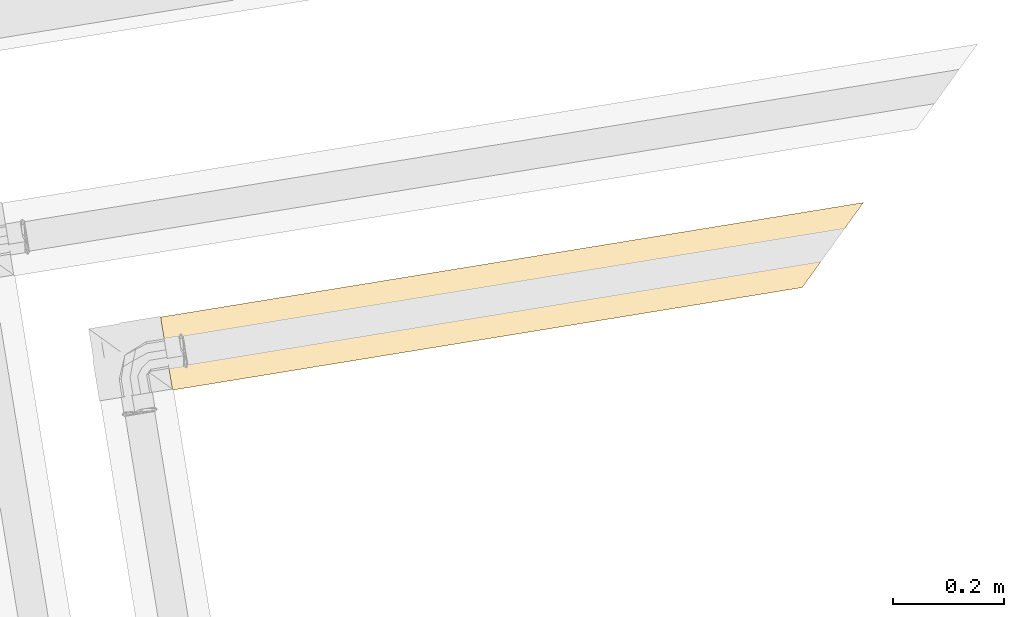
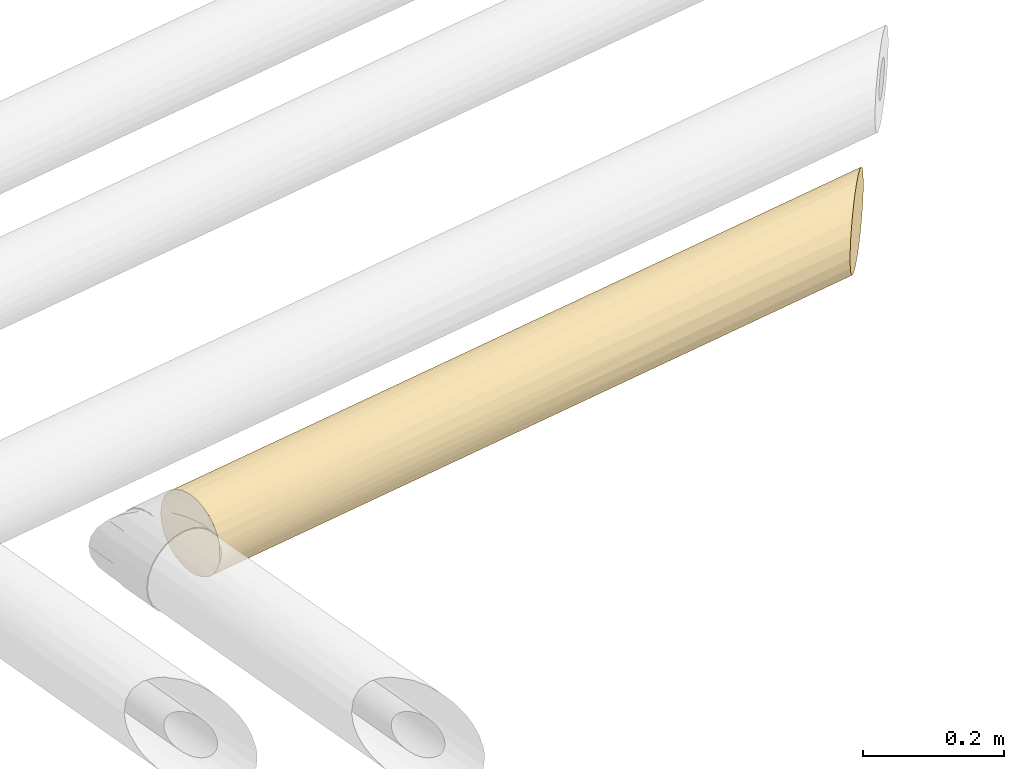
# One storey, part 4 of 46: 1 covering.
"""IFC2X3 building model written with IfcOpenShell, lengths in millimetres."""

from ifc_helpers import new_model, entity, si_unit, converted_unit, derived_unit, direction, frame, origin, origin_with_axes, place, context, subcontext, project, spatial, faceted_brep, type_object, element, save


model = new_model("IFC2X3")

# Units and contexts
model_context = context("Model", 3, precision=0.01, world=origin(), true_north=direction((6.12323399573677e-17, 1.0)))
plan_context = context("Plan", 3, precision=1e-05, world=origin_with_axes())
body_context = subcontext(model_context, "Body", "Model", "MODEL_VIEW")
ifc_project = project(units=[converted_unit("PLANEANGLEUNIT", "DEGREE", entity("IfcPositiveLengthMeasure", 0.0174532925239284), si_unit("PLANEANGLEUNIT", "RADIAN"), dimensions=[0, 0, 0, 0, 0, 0, 0]), si_unit("AREAUNIT", "SQUARE_METRE"), si_unit("LENGTHUNIT", "METRE", prefix="MILLI"), si_unit("MASSUNIT", "GRAM", prefix="KILO"), si_unit("POWERUNIT", "WATT"), si_unit("PRESSUREUNIT", "PASCAL", prefix="KILO"), si_unit("FORCEUNIT", "NEWTON", prefix="KILO"), si_unit("ELECTRICVOLTAGEUNIT", "VOLT"), si_unit("ELECTRICCURRENTUNIT", "AMPERE"), si_unit("THERMODYNAMICTEMPERATUREUNIT", "DEGREE_CELSIUS"), si_unit("TIMEUNIT", "SECOND"), si_unit("VOLUMEUNIT", "CUBIC_METRE"), derived_unit("LINEARVELOCITYUNIT", [(si_unit("LENGTHUNIT", "METRE"), 1), (si_unit("TIMEUNIT", "SECOND"), -1)]), derived_unit("VOLUMETRICFLOWRATEUNIT", [(si_unit("VOLUMEUNIT", "CUBIC_METRE"), 1), (si_unit("TIMEUNIT", "SECOND"), -1)]), derived_unit("THERMALTRANSMITTANCEUNIT", [(si_unit("POWERUNIT", "WATT"), 1), (si_unit("THERMODYNAMICTEMPERATUREUNIT", "KELVIN"), -1), (si_unit("AREAUNIT", "SQUARE_METRE"), -1)]), derived_unit("SOUNDPRESSUREUNIT", [(si_unit("PRESSUREUNIT", "PASCAL"), 1)])], contexts=[model_context, plan_context])

# Site, building, storey
site_placement = place(None, frame((-3.09682673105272e-06, 1.93776733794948e-05, 0.0), z_axis=(0.0, 0.0, 1.0), x_axis=(-0.160806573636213, 0.986985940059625, 0.0)))
site = spatial("IfcSite", under=ifc_project, at=site_placement, Name="Default", CompositionType="ELEMENT")
building_placement = place(site_placement, frame((0.0, 0.0, 0.0), z_axis=(0.0, 0.0, 1.0), x_axis=(1.0, -2.77555756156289e-17, 0.0)))
building = spatial("IfcBuilding", under=site, at=building_placement, Name="Bygning (endres i Project Information)", CompositionType="ELEMENT")
storey_placement = place(building_placement, frame((0.0, 0.0, 51360.0000000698), z_axis=(0.0, 0.0, 1.0), x_axis=(1.0, -2.77555756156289e-17, 0.0)))
storey = spatial("IfcBuildingStorey", under=building, at=storey_placement, Name="H01-Nivå D+0,36", CompositionType="ELEMENT", Elevation=51360.0000000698)

# Covering
covering_type = type_object("IfcCoveringType", Name="Pipe Insulation:GLAVA Rørskål ClimPipe Alu2, isol.kl.4, 45°C", PredefinedType="INSULATION")
covering_placement = place(storey_placement, frame((998984.84157053, -357322.431189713, 3371.40472772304), z_axis=(0.0, 0.0, 1.0), x_axis=(1.0, -2.77555756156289e-17, 0.0)))
element("IfcCovering", 1, at=covering_placement, inside=storey, type_object=covering_type, Name="Pipe Insulation:GLAVA Rørskål ClimPipe Alu2, isol.kl.4, 45°C", ObjectType="Pipe Insulation:GLAVA Rørskål ClimPipe Alu2, isol.kl.4, 45°C", PredefinedType="INSULATION", context=body_context, shape_type="Brep", body=[
    faceted_brep([(39.9299875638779, 9700.0, 129.153520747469), (27.3581172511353, 9700.0, 121.401493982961), (16.7908010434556, 9700.0, 111.084056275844), (8.73898999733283, 9700.0, 98.6988514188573), (3.59527227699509, 9700.0, 84.8433492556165), (3.59527227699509, 9700.0, 52.3471952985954), (8.73898999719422, 9700.0, 38.4916931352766), (16.790801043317, 9700.0, 26.1064882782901), (27.3581172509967, 9700.0, 15.7890505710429), (39.9299875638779, 9700.0, 8.03702380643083), (53.89434458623, 9700.0, 3.2279812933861), (68.5952722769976, 9700.0, 1.5952722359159), (85.9361483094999, 9700.0, 3.87824187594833), (102.095272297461, 9700.0, 10.5715701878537), (115.971426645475, 9700.0, 21.2191179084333), (126.618974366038, 9700.0, 35.0952722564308), (133.312302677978, 9700.0, 51.2543962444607), (135.595272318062, 9700.0, 68.5952722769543), (133.312302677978, 9700.0, 85.9361483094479), (126.618974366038, 9700.0, 102.095272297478), (115.971426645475, 9700.0, 115.971426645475), (102.095272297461, 9700.0, 126.618974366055), (85.9361483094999, 9700.0, 133.31230267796), (68.5952722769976, 9700.0, 135.595272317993), (53.8943445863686, 9700.0, 133.962563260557), (21.7891917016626, 8525.0090230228, 116.534721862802), (12.7832729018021, 8534.01494182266, 104.78228883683), (21.7888472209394, 8889.62797751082, 116.53438552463), (35.3195724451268, 8511.47864227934, 126.513104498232), (82.4125739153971, 8464.38564080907, 134.153797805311), (80.3450519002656, 8466.4531628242, 134.383326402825), (82.2713700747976, 8504.18182668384, 134.1846338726), (68.5952722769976, 8478.20294244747, 135.595272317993), (68.5952722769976, 8556.76818252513, 135.595272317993), (81.4398479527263, 9021.03046517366, 134.352529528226), (68.5952722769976, 9128.38272006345, 135.595272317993), (80.0627785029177, 9360.94450971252, 134.60660695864), (94.2350622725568, 9362.10025371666, 130.495200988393), (109.382288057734, 9231.32429401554, 121.749946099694), (94.2350622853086, 8958.81252754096, 130.495200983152), (109.00714311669, 8758.50508087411, 122.035712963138), (95.4628387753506, 8472.07903979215, 129.972253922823), (111.122932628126, 8435.67528209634, 120.333737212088), (97.4475607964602, 8449.35065392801, 128.727914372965), (95.6217135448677, 8451.1765011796, 129.896956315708), (132.600526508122, 8414.19768821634, 86.573105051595), (132.064829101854, 8414.73338562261, 90.0476544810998), (131.977318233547, 8503.48347362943, 90.3143020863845), (135.595272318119, 8411.20294240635, 68.5952722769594), (135.595272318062, 8556.76668676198, 68.595272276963), (132.027240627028, 8808.1059209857, 90.1680652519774), (134.349130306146, 9011.88430848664, 81.457237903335), (130.495200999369, 9092.54379816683, 94.2350622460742), (124.14843047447, 8965.11062637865, 106.04986638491), (121.74994612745, 8619.67089482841, 109.382288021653), (121.749946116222, 9310.55035789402, 109.38228803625), (130.495200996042, 9436.16345947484, 94.2350622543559), (134.560535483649, 9355.79886491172, 80.3248952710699), (135.595272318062, 9128.3833433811, 68.5952722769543), (134.606606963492, 9360.94451143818, 57.127766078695), (134.352529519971, 9021.03046937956, 55.7506965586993), (134.188026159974, 8500.7615047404, 54.9354537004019), (130.495200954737, 8958.81252971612, 42.955482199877), (129.972253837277, 8472.07904357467, 41.7277055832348), (130.694255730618, 8416.10395899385, 43.9686701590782), (134.169089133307, 8412.62912559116, 54.8457414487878), (129.773929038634, 8417.02428568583, 41.3092486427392), (127.104261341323, 8419.69395338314, 37.1532565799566), (107.944028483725, 8438.85418624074, 14.4136248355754), (115.008197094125, 8431.79001763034, 20.7765114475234), (109.382287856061, 8619.67089808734, 15.4405982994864), (92.4302597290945, 8454.36795499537, 6.25604964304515), (90.3143019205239, 8503.48347695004, 5.21322626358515), (90.1735157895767, 8456.62469893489, 5.16702177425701), (88.424146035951, 8458.37406868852, 4.89836426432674), (68.5952722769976, 8478.20294244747, 1.5952722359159), (68.5952722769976, 8556.76613633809, 1.5952722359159), (64.3535348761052, 8482.44467984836, 2.11950725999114), (4.08056632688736, 8542.71764839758, 50.6175336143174), (8.23918738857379, 8538.55902733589, 40.3017383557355), (4.52398121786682, 8752.84321010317, 49.0026801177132), (10.5529106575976, 8536.24530406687, 35.1715476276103), (12.4225093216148, 9011.81789362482, 32.0765002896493), (12.7832727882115, 8534.01494193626, 32.4082558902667), (21.7888471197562, 8889.62797765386, 20.6561591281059), (21.789191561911, 8525.00902316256, 20.6558228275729), (35.3195722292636, 8511.4786424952, 10.6774401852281), (36.4137014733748, 8510.38451325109, 9.83722716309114), (33.4297884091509, 9011.82273830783, 11.5655541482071), (38.1536223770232, 8508.64459234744, 9.08862521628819), (50.0582958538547, 8770.37043532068, 4.21064281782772), (51.2829024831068, 8495.51531224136, 3.8807628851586), (46.7792501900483, 9280.70871282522, 5.24654548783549), (68.5952722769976, 9128.38306816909, 1.5952722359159), (81.4572378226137, 9011.88430998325, 2.84141423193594), (90.1680651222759, 8808.10592356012, 5.16330388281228), (94.2350621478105, 9092.54379994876, 6.69534351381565), (106.04986626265, 8965.11062875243, 13.0421139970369), (122.035712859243, 8758.50508414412, 28.1834012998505), (121.749946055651, 9231.32429547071, 27.8082564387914), (109.382287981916, 9310.55035921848, 15.4405983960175), (130.495200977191, 9362.10025453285, 42.955482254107), (94.2350622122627, 9436.1634604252, 6.69534354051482), (80.324895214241, 9355.79886528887, 2.63000906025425), (33.4297884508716, 9380.97952465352, 11.5655541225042), (21.7893064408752, 9280.71015107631, 20.6557106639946), (12.4225093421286, 9380.98605478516, 32.0765002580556), (5.78391547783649, 9280.65365067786, 45.2771792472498), (2.53456713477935, 9269.2875078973, 57.4156818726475), (1.59527223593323, 9126.38228358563, 68.5952722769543), (1.59527223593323, 8554.76651207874, 68.5952722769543), (4.52398125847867, 8752.84320957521, 88.1878645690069), (2.53456714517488, 9269.28750765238, 79.7748627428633), (1.59527223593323, 9412.19211420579, 68.5952722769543), (2.09715197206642, 9698.50187969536, 76.7806251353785), (5.78391550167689, 9280.6536506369, 91.9133653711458), (12.4225093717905, 9380.98605484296, 105.114044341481), (12.4225093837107, 9011.81789377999, 105.114044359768), (21.7893064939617, 9280.71015108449, 116.534833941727), (33.4297885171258, 9011.82273869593, 125.624990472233), (33.4297885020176, 9380.97952481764, 125.624990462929), (46.7792502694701, 9280.70871289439, 131.943999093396), (50.0582959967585, 8770.37043618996, 132.979901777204), (38.1536224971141, 8508.64459222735, 128.101919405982), (36.4137016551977, 8510.38451306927, 127.35331749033), (10.5529107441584, 8536.24530398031, 102.018997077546), (8.23918744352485, 8538.55902728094, 96.8888063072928), (1.59527223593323, 9697.99999995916, 68.5952722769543), (2.09715197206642, 9698.50187969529, 60.4099194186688), (4.08056636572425, 8542.71764835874, 86.5730110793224), (1.65953218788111, 8545.13868253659, 69.1300040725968), (1.65953218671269, 8545.13868253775, 68.0605404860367), (1.59527223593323, 8545.20294248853, 68.5952722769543), (120.285431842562, 8426.5127828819, 26.0075617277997), (134.604775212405, 8412.19343951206, 58.9807420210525), (130.133967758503, 8416.66424696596, 94.054582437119), (122.861646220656, 8423.93656850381, 107.825370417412), (116.375209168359, 8430.42300555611, 115.049131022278), (94.7069617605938, 8452.09125296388, 130.221511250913), (64.353453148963, 8482.4447615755, 135.07102720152), (51.2829026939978, 8495.51531203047, 133.309781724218)], [[[0, 1, 2, 3, 4, 5, 6, 7, 8, 9, 10, 11, 12, 13, 14, 15, 16, 17, 18, 19, 20, 21, 22, 23, 24]], [[25, 26, 27]], [[28, 25, 27]], [[29, 30, 31]], [[30, 32, 33, 31]], [[31, 33, 34]], [[34, 33, 35]], [[34, 35, 36]], [[36, 35, 23]], [[22, 36, 23]], [[22, 37, 36]], [[22, 21, 37]], [[38, 37, 21]], [[39, 37, 38]], [[39, 34, 37]], [[39, 38, 40]], [[39, 40, 41]], [[42, 43, 41, 40]], [[43, 44, 41]], [[45, 46, 47]], [[48, 45, 47, 49]], [[47, 50, 49]], [[49, 50, 51]], [[51, 50, 52]], [[53, 52, 50]], [[54, 53, 50]], [[54, 40, 53]], [[52, 53, 55]], [[38, 55, 53]], [[20, 55, 38]], [[19, 55, 20]], [[19, 56, 55]], [[18, 56, 19]], [[57, 56, 18]], [[56, 57, 52]], [[17, 57, 18]], [[58, 57, 17]], [[51, 57, 58]], [[59, 58, 17]], [[60, 58, 59]], [[60, 49, 58]], [[61, 49, 60]], [[60, 62, 61]], [[62, 63, 61]], [[64, 65, 61, 63]], [[66, 64, 63]], [[67, 66, 63]], [[68, 69, 70]], [[71, 68, 70, 72]], [[73, 71, 72]], [[74, 73, 72]], [[75, 74, 72, 76]], [[77, 75, 76]], [[78, 79, 80]], [[79, 81, 82, 80]], [[81, 83, 84, 82]], [[83, 85, 84]], [[85, 86, 84]], [[86, 87, 88, 84]], [[87, 89, 90, 88]], [[89, 91, 90]], [[92, 88, 90]], [[92, 90, 93]], [[76, 93, 90]], [[94, 93, 76]], [[76, 95, 94]], [[94, 95, 96]], [[97, 96, 95]], [[70, 97, 95]], [[70, 98, 97]], [[97, 98, 99]], [[99, 100, 97]], [[14, 100, 99]], [[14, 99, 15]], [[99, 101, 15]], [[62, 101, 99]], [[16, 15, 101]], [[16, 101, 59]], [[100, 14, 13]], [[13, 102, 100]], [[96, 100, 102]], [[102, 103, 96]], [[103, 102, 12]], [[11, 103, 12]], [[93, 103, 11]], [[93, 11, 10]], [[12, 102, 13]], [[62, 99, 98]], [[96, 97, 100]], [[103, 94, 96]], [[94, 103, 93]], [[92, 93, 10]], [[10, 9, 92]], [[9, 104, 92]], [[104, 9, 8]], [[105, 104, 8]], [[88, 104, 105]], [[8, 7, 105]], [[7, 106, 105]], [[82, 105, 106]], [[82, 106, 107]], [[106, 6, 107]], [[5, 107, 6]], [[108, 107, 5]], [[107, 108, 80]], [[109, 80, 108]], [[109, 110, 80]], [[110, 109, 111]], [[109, 112, 111]], [[109, 113, 112]], [[112, 113, 114]], [[4, 112, 114]], [[115, 112, 4]], [[4, 3, 115]], [[3, 116, 115]], [[117, 115, 116]], [[117, 116, 118]], [[117, 118, 27]], [[118, 119, 27]], [[119, 118, 120]], [[119, 120, 121]], [[122, 119, 121]], [[123, 124, 119, 122]], [[121, 35, 122]], [[121, 24, 35]], [[24, 121, 0]], [[121, 120, 0]], [[1, 0, 120]], [[1, 120, 118]], [[2, 1, 118]], [[2, 118, 116]], [[115, 117, 111]], [[125, 126, 111, 117]], [[3, 2, 116]], [[113, 127, 114]], [[128, 127, 113]], [[128, 113, 108]], [[111, 112, 115]], [[129, 130, 110, 111]], [[108, 113, 109]], [[108, 5, 128]], [[7, 6, 106]], [[104, 88, 92]], [[88, 105, 84]], [[82, 84, 105]], [[80, 82, 107]], [[131, 78, 80, 110]], [[132, 131, 110]], [[91, 77, 76, 90]], [[72, 95, 76]], [[72, 70, 95]], [[69, 133, 98, 70]], [[133, 67, 63, 98]], [[65, 134, 61]], [[62, 98, 63]], [[62, 60, 101]], [[60, 59, 101]], [[16, 59, 17]], [[52, 55, 56]], [[57, 51, 52]], [[51, 58, 49]], [[47, 54, 50]], [[135, 136, 54, 47]], [[134, 48, 49, 61]], [[46, 135, 47]], [[136, 137, 54]], [[44, 138, 41]], [[137, 42, 40, 54]], [[39, 41, 31]], [[53, 40, 38]], [[20, 38, 21]], [[23, 35, 24]], [[34, 36, 37]], [[35, 33, 122]], [[139, 140, 122, 33]], [[34, 39, 31]], [[138, 29, 31, 41]], [[32, 139, 33]], [[140, 123, 122]], [[124, 28, 27, 119]], [[26, 125, 117, 27]], [[126, 129, 111]], [[130, 132, 110]], [[5, 4, 114, 127, 128]], [[28, 124, 123, 140, 139, 32, 30, 29, 138, 44, 43, 42, 137, 136, 135, 46, 45, 48, 134, 65, 64, 66, 67, 133, 69, 68, 71, 73, 74, 75, 77, 91, 89, 87, 86, 85, 83, 81, 79, 78, 131, 132, 130, 129, 126, 125, 26, 25]]], orient=[[False], [False], [False], [False], [False], [False], [False], [False], [False], [False], [False], [False], [False], [False], [False], [False], [False], [False], [False], [False], [False], [False], [False], [False], [False], [False], [False], [False], [False], [False], [False], [False], [False], [False], [False], [False], [False], [False], [False], [False], [False], [False], [False], [False], [False], [False], [False], [False], [False], [False], [False], [False], [False], [False], [False], [False], [False], [False], [False], [False], [False], [False], [False], [False], [False], [False], [False], [False], [False], [False], [False], [False], [False], [False], [False], [False], [False], [False], [False], [False], [False], [False], [False], [False], [False], [False], [False], [False], [False], [False], [False], [False], [False], [False], [False], [False], [False], [False], [False], [False], [False], [False], [False], [False], [False], [False], [False], [False], [False], [False], [False], [False], [False], [False], [False], [False], [False], [False], [False], [False], [False], [False], [False], [False], [False], [False], [False], [False], [False], [False], [False], [False], [False], [False], [False], [False], [False], [False], [False], [False], [False], [False], [False], [False], [False], [False], [False], [False], [False], [False], [False], [False], [False], [False], [False], [False], [False], [False], [False], [False], [False], [False], [False], [False], [False], [False], [False], [False], [False], [False], [False], [False], [False], [False], [False], [False], [False], [False], [False], [False], [False], [False], [False], [False], [False]]),
])

save(model, "model.ifc")
